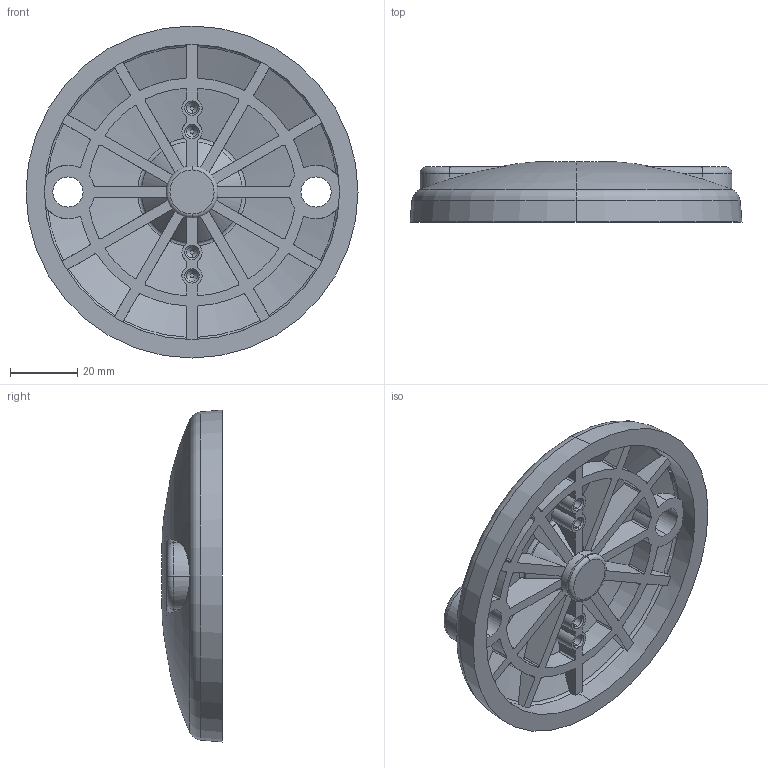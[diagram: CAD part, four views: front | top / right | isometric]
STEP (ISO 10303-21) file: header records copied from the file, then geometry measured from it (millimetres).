
FILE_DESCRIPTION(('STEP AP214'),'1');
FILE_NAME('fath_098d100kb.stp','2017-04-24T02:26:12',('TraceParts'),('TraceParts S.A.'),'Spatial InterOp 3D',' ',' ');
FILE_SCHEMA(('automotive_design'));
Length unit declared in the file: millimetre
Products named in the file (1): fath_098d100kb
Bounding box: 99 x 18 x 99 mm (x, y, z)
Volume: 52859.4 mm3; surface area: 28391.3 mm2
Topology: 1 solids, 1 shells, 320 faces, 875 edges, 561 vertices
Faces by surface type: cylinder 157, plane 65, cone 56, torus 38, sphere 4
Entity records: 13774 total; most frequent: CARTESIAN_POINT 3252, ORIENTED_EDGE 1742, DIRECTION 1623, EDGE_CURVE 871, AXIS2_PLACEMENT_3D 662, VERTEX_POINT 561, CIRCLE 341, EDGE_LOOP 332
